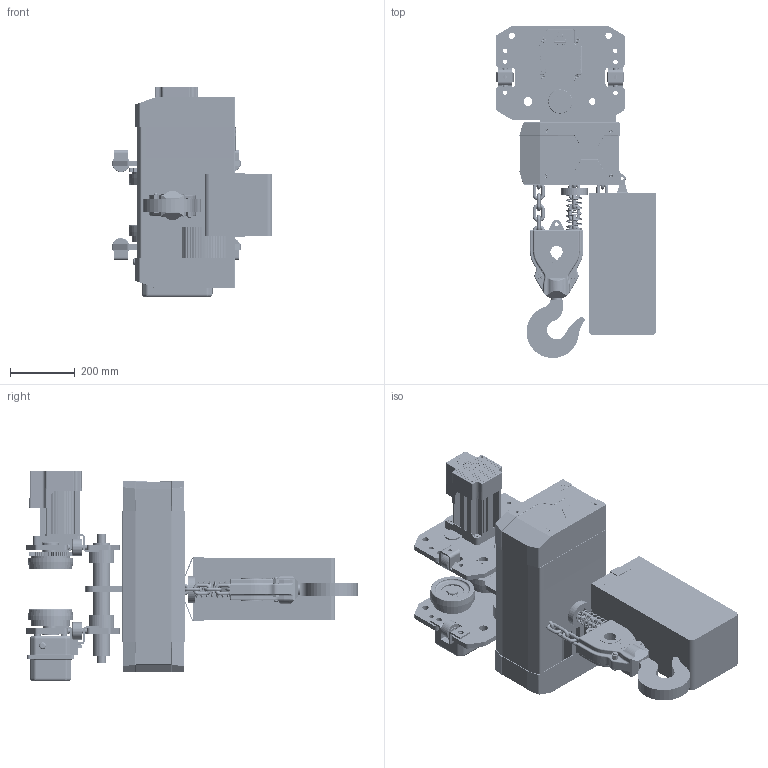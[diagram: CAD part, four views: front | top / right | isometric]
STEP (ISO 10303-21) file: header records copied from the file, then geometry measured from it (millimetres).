
FILE_DESCRIPTION(/* description */ (''),/* implementation_level */ '2;1');
FILE_NAME(/* name */ 'YJ 05-02 运行式.stp',/* time_stamp */ '2026-06-09T11:18:25+08:00',/* author */ (''),/* organization */ (''),/* preprocessor_version */ 'ST-DEVELOPER v16.7',/* originating_system */ 'SIEMENS PLM Software NX 12.0',/* authorisation */ '');
FILE_SCHEMA (('AP203_CONFIGURATION_CONTROLLED_3D_DESIGN_OF_MECHANICAL_PARTS_AND_ASSEMBLIES_MIM_LF { 1 0 10303 403 2 1 2}'));
Products named in the file (1): A099878D529sj
Bounding box: 497.75 x 1028.7 x 652.98 mm (x, y, z)
Volume: 14276890.7 mm3; surface area: 4680563.6 mm2
Topology: 51 solids, 68 shells, 6619 faces, 17080 edges, 10498 vertices
Faces by surface type: plane 2317, cylinder 2187, torus 646, extrusion 620, bspline 560, cone 190, sphere 99
Full cylindrical faces by diameter (mm): 1.301 x8, 2 x4, 2.4 x8, 3.5 x4, 4.2 x1, 5 x4, 5.326 x2, 5.795 x8, 6 x7, 6.3 x8, 6.4 x10, 6.5 x2, 6.6 x8, 6.791 x1, 7.46 x1, 8 x4, 8.6 x8, 9 x2, 9.045 x2, 9.732 x4, 10 x8, 10.3 x13, 10.5 x4, 10.579 x2, 11.2 x12, 11.701 x2, 12 x4, 12.5 x1, 13 x2, 14 x12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
Entity records: 234959 total; most frequent: CARTESIAN_POINT 79530, ORIENTED_EDGE 32656, DIRECTION 29295, EDGE_CURVE 16330, VERTEX_POINT 10319, AXIS2_PLACEMENT_3D 10185, VECTOR 8925, LINE 8305
